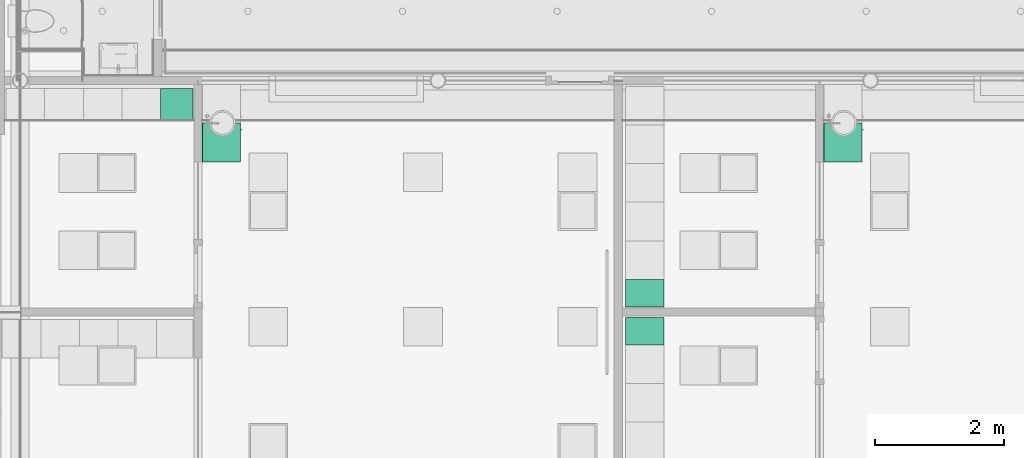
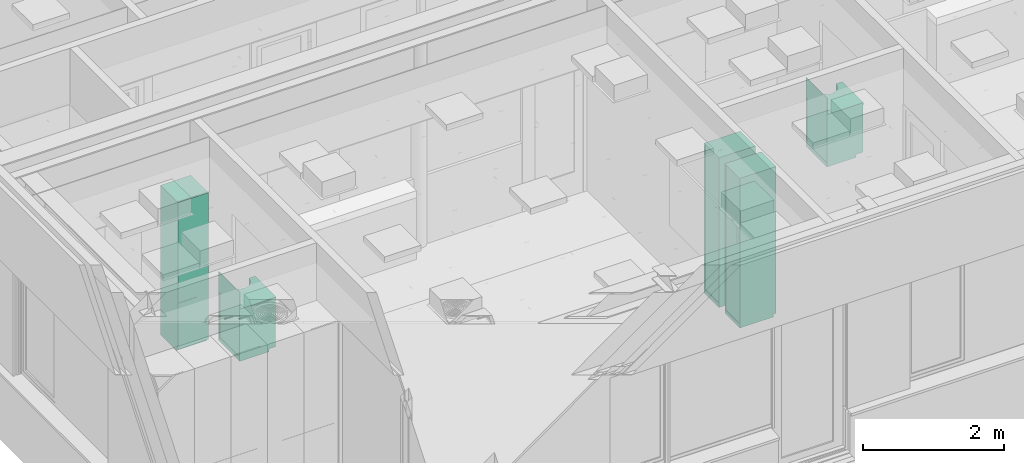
# One storey, part 300 of 347: 5 distribution elements.
"""IFC2X3 building model written with IfcOpenShell, lengths in millimetres."""

from ifc_helpers import new_model, entity, si_unit, converted_unit, derived_unit, money_unit, direction, frame, origin_with_axes, place, context, subcontext, project, spatial, faceted_brep, type_object, element, save


model = new_model("IFC2X3")

# Units and contexts
model_context = context("Model", 3, precision=0.01, world=origin_with_axes(), true_north=direction((0.0, 1.0)))
plan_context = context("Plan", 3, precision=0.01, world=origin_with_axes(), true_north=direction((0.0, 1.0)))
body_context = subcontext(model_context, "Body", "Model", "MODEL_VIEW")
ifc_project = project(units=[si_unit("LENGTHUNIT", "METRE", prefix="MILLI"), si_unit("AREAUNIT", "SQUARE_METRE"), si_unit("VOLUMEUNIT", "CUBIC_METRE"), converted_unit("PLANEANGLEUNIT", "DEGREE", entity("IfcPlaneAngleMeasure", 0.0174532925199), si_unit("PLANEANGLEUNIT", "RADIAN"), dimensions=[0, 0, 0, 0, 0, 0, 0]), money_unit("EUR"), converted_unit("TIMEUNIT", "Year", entity("IfcTimeMeasure", 31556926.0), si_unit("TIMEUNIT", "SECOND"), dimensions=[0, 0, 1, 0, 0, 0, 0]), si_unit("MASSUNIT", "GRAM", prefix="KILO"), si_unit("THERMODYNAMICTEMPERATUREUNIT", "DEGREE_CELSIUS"), si_unit("LUMINOUSINTENSITYUNIT", "LUMEN"), si_unit("ENERGYUNIT", "JOULE", prefix="MEGA"), derived_unit("THERMALCONDUCTANCEUNIT", [(si_unit("POWERUNIT", "WATT"), 1), (si_unit("LENGTHUNIT", "METRE"), -1), (si_unit("THERMODYNAMICTEMPERATUREUNIT", "KELVIN"), -1)]), derived_unit("SPECIFICHEATCAPACITYUNIT", [(si_unit("ENERGYUNIT", "JOULE"), 1), (si_unit("MASSUNIT", "GRAM", prefix="KILO"), -1), (si_unit("THERMODYNAMICTEMPERATUREUNIT", "KELVIN"), -1)]), derived_unit("MASSDENSITYUNIT", [(si_unit("MASSUNIT", "GRAM", prefix="KILO"), 1), (si_unit("VOLUMEUNIT", "CUBIC_METRE"), -1)])], contexts=[model_context, plan_context])

# Site, building, storey
site_placement = place(None, origin_with_axes())
site = spatial("IfcSite", under=ifc_project, at=site_placement, Name="Site", CompositionType="ELEMENT")
building_placement = place(site_placement, origin_with_axes())
building = spatial("IfcBuilding", under=site, at=building_placement, Name="Naam gebouw", CompositionType="ELEMENT")
storey_placement = place(building_placement, origin_with_axes())
storey = spatial("IfcBuildingStorey", under=building, at=storey_placement, Name="begane grond", CompositionType="ELEMENT", Elevation=0.0)

# Distribution elements
distribution_element_type_1 = type_object("IfcDistributionElementType", Name="Hoge kast recht 25")
distribution_element_1_placement = place(storey_placement, frame((14702.0, 9034.99999988, 0.0), z_axis=(0.0, 0.0, 1.0), x_axis=(0.0, 1.0, 0.0)))
element("IfcDistributionElement", 1, at=distribution_element_1_placement, inside=storey, type_object=distribution_element_type_1, Name="65 Beveiliging_80 garderobe", context=body_context, shape_type="Brep", body=[
    faceted_brep([(-18.0, -580.0, 841.0), (-18.0, -580.0, 859.0), (-406.999999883, -580.0, 859.0), (-406.999999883, -580.0, 841.0), (-18.0, -18.0, 841.0), (-18.0, -18.0, 859.0), (-406.999999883, -18.0, 859.0), (-406.999999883, -18.0, 841.0)], [[[0, 1, 2, 3]], [[4, 5, 1, 0]], [[1, 5, 6, 2]], [[3, 2, 6, 7]], [[0, 3, 7, 4]], [[7, 6, 5, 4]]]),
    faceted_brep([(-1.0, -580.0, 51.0), (-1.0, -598.0, 51.0), (-423.999999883, -598.0, 51.0), (-423.999999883, -580.0, 51.0), (-1.0, -580.0, 849.0), (-1.0, -598.0, 849.0), (-423.999999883, -598.0, 849.0), (-423.999999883, -580.0, 849.0)], [[[0, 1, 2, 3]], [[4, 5, 1, 0]], [[1, 5, 6, 2]], [[3, 2, 6, 7]], [[0, 3, 7, 4]], [[7, 6, 5, 4]]]),
    faceted_brep([(-1.0, -580.0, 851.0), (-1.0, -598.0, 851.0), (-423.999999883, -598.0, 851.0), (-423.999999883, -580.0, 851.0), (-1.0, -580.0, 2599.0), (-1.0, -598.0, 2599.0), (-423.999999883, -598.0, 2599.0), (-423.999999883, -580.0, 2599.0)], [[[0, 1, 2, 3]], [[4, 5, 1, 0]], [[1, 5, 6, 2]], [[3, 2, 6, 7]], [[0, 3, 7, 4]], [[7, 6, 5, 4]]]),
    faceted_brep([(-18.0, -580.0, 50.0), (-18.0, -580.0, 68.0), (-406.999999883, -580.0, 68.0), (-406.999999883, -580.0, 50.0), (-18.0, 0.0, 50.0), (-18.0, 0.0, 68.0), (-406.999999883, 0.0, 68.0), (-406.999999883, 0.0, 50.0)], [[[0, 1, 2, 3]], [[4, 5, 1, 0]], [[1, 5, 6, 2]], [[3, 2, 6, 7]], [[0, 3, 7, 4]], [[7, 6, 5, 4]]]),
    faceted_brep([(-18.0, -580.0, 2582.0), (-18.0, -580.0, 2600.0), (-406.999999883, -580.0, 2600.0), (-406.999999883, -580.0, 2582.0), (-18.0, 0.0, 2582.0), (-18.0, 0.0, 2600.0), (-406.999999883, 0.0, 2600.0), (-406.999999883, 0.0, 2582.0)], [[[0, 1, 2, 3]], [[4, 5, 1, 0]], [[1, 5, 6, 2]], [[3, 2, 6, 7]], [[0, 3, 7, 4]], [[7, 6, 5, 4]]]),
    faceted_brep([(0.0, 0.0, 50.0), (0.0, 0.0, 2600.0), (0.0, -580.0, 2600.0), (0.0, -580.0, 50.0), (-18.0, 0.0, 50.0), (-18.0, 0.0, 2600.0), (-18.0, -580.0, 2600.0), (-18.0, -580.0, 50.0)], [[[0, 1, 2, 3]], [[4, 5, 1, 0]], [[1, 5, 6, 2]], [[3, 2, 6, 7]], [[0, 3, 7, 4]], [[7, 6, 5, 4]]]),
    faceted_brep([(-424.999999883, -580.0, 50.0), (-424.999999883, -580.0, 2600.0), (-424.999999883, 0.0, 2600.0), (-424.999999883, 0.0, 50.0), (-406.999999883, -580.0, 50.0), (-406.999999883, -580.0, 2600.0), (-406.999999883, 0.0, 2600.0), (-406.999999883, 0.0, 50.0)], [[[0, 1, 2, 3]], [[4, 5, 1, 0]], [[1, 5, 6, 2]], [[3, 2, 6, 7]], [[0, 3, 7, 4]], [[7, 6, 5, 4]]]),
    faceted_brep([(-406.999999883, -9.0, 68.0), (-406.999999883, -9.0, 2582.0), (-18.0, -9.0, 2582.0), (-18.0, -9.0, 68.0), (-406.999999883, -18.0, 68.0), (-406.999999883, -18.0, 2582.0), (-18.0, -18.0, 2582.0), (-18.0, -18.0, 68.0)], [[[0, 1, 2, 3]], [[4, 5, 1, 0]], [[1, 5, 6, 2]], [[3, 2, 6, 7]], [[0, 3, 7, 4]], [[7, 6, 5, 4]]]),
    faceted_brep([(0.0, -550.0, 0.0), (0.0, -550.0, 50.0), (-424.999999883, -550.0, 50.0), (-424.999999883, -550.0, 0.0), (0.0, 0.0, 0.0), (0.0, 0.0, 50.0), (-424.999999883, 0.0, 50.0), (-424.999999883, 0.0, 0.0)], [[[0, 1, 2, 3]], [[4, 5, 1, 0]], [[1, 5, 6, 2]], [[3, 2, 6, 7]], [[0, 3, 7, 4]], [[7, 6, 5, 4]]]),
])
distribution_element_2_placement = place(storey_placement, frame((7480.0, 11997.999972, 0.0), z_axis=(0.0, 0.0, 1.0), x_axis=(1.0, 0.0, 0.0)))
element("IfcDistributionElement", 2, at=distribution_element_2_placement, inside=storey, type_object=distribution_element_type_1, Name="65 Beveiliging_80 garderobe", context=body_context, shape_type="Brep", body=[
    faceted_brep([(18.0, -480.0, 841.0), (482.0, -480.0, 841.0), (482.0, -480.0, 859.0), (18.0, -480.0, 859.0), (18.0, -18.0, 841.0), (482.0, -18.0, 841.0), (482.0, -18.0, 859.0), (18.0, -18.0, 859.0)], [[[0, 1, 2, 3]], [[0, 4, 5, 1]], [[1, 5, 6, 2]], [[3, 2, 6, 7]], [[4, 0, 3, 7]], [[5, 4, 7, 6]]]),
    faceted_brep([(1.0, -480.0, 51.0), (499.0, -480.0, 51.0), (499.0, -498.0, 51.0), (1.0, -498.0, 51.0), (1.0, -480.0, 849.0), (499.0, -480.0, 849.0), (499.0, -498.0, 849.0), (1.0, -498.0, 849.0)], [[[0, 1, 2, 3]], [[0, 4, 5, 1]], [[1, 5, 6, 2]], [[3, 2, 6, 7]], [[4, 0, 3, 7]], [[5, 4, 7, 6]]]),
    faceted_brep([(1.0, -480.0, 851.0), (499.0, -480.0, 851.0), (499.0, -498.0, 851.0), (1.0, -498.0, 851.0), (1.0, -480.0, 2599.0), (499.0, -480.0, 2599.0), (499.0, -498.0, 2599.0), (1.0, -498.0, 2599.0)], [[[0, 1, 2, 3]], [[0, 4, 5, 1]], [[1, 5, 6, 2]], [[3, 2, 6, 7]], [[4, 0, 3, 7]], [[5, 4, 7, 6]]]),
    faceted_brep([(18.0, -480.0, 50.0), (482.0, -480.0, 50.0), (482.0, -480.0, 68.0), (18.0, -480.0, 68.0), (18.0, 0.0, 50.0), (482.0, 0.0, 50.0), (482.0, 0.0, 68.0), (18.0, 0.0, 68.0)], [[[0, 1, 2, 3]], [[0, 4, 5, 1]], [[1, 5, 6, 2]], [[3, 2, 6, 7]], [[4, 0, 3, 7]], [[5, 4, 7, 6]]]),
    faceted_brep([(18.0, -480.0, 2582.0), (482.0, -480.0, 2582.0), (482.0, -480.0, 2600.0), (18.0, -480.0, 2600.0), (18.0, 0.0, 2582.0), (482.0, 0.0, 2582.0), (482.0, 0.0, 2600.0), (18.0, 0.0, 2600.0)], [[[0, 1, 2, 3]], [[0, 4, 5, 1]], [[1, 5, 6, 2]], [[3, 2, 6, 7]], [[4, 0, 3, 7]], [[5, 4, 7, 6]]]),
    faceted_brep([(0.0, 0.0, 50.0), (0.0, -480.0, 50.0), (0.0, -480.0, 2600.0), (0.0, 0.0, 2600.0), (18.0, 0.0, 50.0), (18.0, -480.0, 50.0), (18.0, -480.0, 2600.0), (18.0, 0.0, 2600.0)], [[[0, 1, 2, 3]], [[0, 4, 5, 1]], [[1, 5, 6, 2]], [[3, 2, 6, 7]], [[4, 0, 3, 7]], [[5, 4, 7, 6]]]),
    faceted_brep([(500.0, -480.0, 50.0), (500.0, 0.0, 50.0), (500.0, 0.0, 2600.0), (500.0, -480.0, 2600.0), (482.0, -480.0, 50.0), (482.0, 0.0, 50.0), (482.0, 0.0, 2600.0), (482.0, -480.0, 2600.0)], [[[0, 1, 2, 3]], [[0, 4, 5, 1]], [[1, 5, 6, 2]], [[3, 2, 6, 7]], [[4, 0, 3, 7]], [[5, 4, 7, 6]]]),
    faceted_brep([(482.0, -9.0, 68.0), (18.0, -9.0, 68.0), (18.0, -9.0, 2582.0), (482.0, -9.0, 2582.0), (482.0, -18.0, 68.0), (18.0, -18.0, 68.0), (18.0, -18.0, 2582.0), (482.0, -18.0, 2582.0)], [[[0, 1, 2, 3]], [[0, 4, 5, 1]], [[1, 5, 6, 2]], [[3, 2, 6, 7]], [[4, 0, 3, 7]], [[5, 4, 7, 6]]]),
    faceted_brep([(0.0, -450.0, 0.0), (500.0, -450.0, 0.0), (500.0, -450.0, 50.0), (0.0, -450.0, 50.0), (0.0, 0.0, 0.0), (500.0, 0.0, 0.0), (500.0, 0.0, 50.0), (0.0, 0.0, 50.0)], [[[0, 1, 2, 3]], [[0, 4, 5, 1]], [[1, 5, 6, 2]], [[3, 2, 6, 7]], [[4, 0, 3, 7]], [[5, 4, 7, 6]]]),
])
distribution_element_3_placement = place(storey_placement, frame((14702.0, 8020.00000012, 0.0), z_axis=(0.0, 0.0, 1.0), x_axis=(0.0, 1.0, 0.0)))
element("IfcDistributionElement", 3, at=distribution_element_3_placement, inside=storey, type_object=distribution_element_type_1, Name="65 Beveiliging_80 garderobe", context=body_context, shape_type="Brep", body=[
    faceted_brep([(18.0, -580.0, 841.0), (406.999999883, -580.0, 841.0), (406.999999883, -580.0, 859.0), (18.0, -580.0, 859.0), (18.0, -18.0, 841.0), (406.999999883, -18.0, 841.0), (406.999999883, -18.0, 859.0), (18.0, -18.0, 859.0)], [[[0, 1, 2, 3]], [[0, 4, 5, 1]], [[1, 5, 6, 2]], [[3, 2, 6, 7]], [[4, 0, 3, 7]], [[5, 4, 7, 6]]]),
    faceted_brep([(1.0, -580.0, 51.0), (423.999999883, -580.0, 51.0), (423.999999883, -598.0, 51.0), (1.0, -598.0, 51.0), (1.0, -580.0, 849.0), (423.999999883, -580.0, 849.0), (423.999999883, -598.0, 849.0), (1.0, -598.0, 849.0)], [[[0, 1, 2, 3]], [[0, 4, 5, 1]], [[1, 5, 6, 2]], [[3, 2, 6, 7]], [[4, 0, 3, 7]], [[5, 4, 7, 6]]]),
    faceted_brep([(1.0, -580.0, 851.0), (423.999999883, -580.0, 851.0), (423.999999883, -598.0, 851.0), (1.0, -598.0, 851.0), (1.0, -580.0, 2599.0), (423.999999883, -580.0, 2599.0), (423.999999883, -598.0, 2599.0), (1.0, -598.0, 2599.0)], [[[0, 1, 2, 3]], [[0, 4, 5, 1]], [[1, 5, 6, 2]], [[3, 2, 6, 7]], [[4, 0, 3, 7]], [[5, 4, 7, 6]]]),
    faceted_brep([(18.0, -580.0, 50.0), (406.999999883, -580.0, 50.0), (406.999999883, -580.0, 68.0), (18.0, -580.0, 68.0), (18.0, 0.0, 50.0), (406.999999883, 0.0, 50.0), (406.999999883, 0.0, 68.0), (18.0, 0.0, 68.0)], [[[0, 1, 2, 3]], [[0, 4, 5, 1]], [[1, 5, 6, 2]], [[3, 2, 6, 7]], [[4, 0, 3, 7]], [[5, 4, 7, 6]]]),
    faceted_brep([(18.0, -580.0, 2582.0), (406.999999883, -580.0, 2582.0), (406.999999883, -580.0, 2600.0), (18.0, -580.0, 2600.0), (18.0, 0.0, 2582.0), (406.999999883, 0.0, 2582.0), (406.999999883, 0.0, 2600.0), (18.0, 0.0, 2600.0)], [[[0, 1, 2, 3]], [[0, 4, 5, 1]], [[1, 5, 6, 2]], [[3, 2, 6, 7]], [[4, 0, 3, 7]], [[5, 4, 7, 6]]]),
    faceted_brep([(0.0, 0.0, 50.0), (0.0, -580.0, 50.0), (0.0, -580.0, 2600.0), (0.0, 0.0, 2600.0), (18.0, 0.0, 50.0), (18.0, -580.0, 50.0), (18.0, -580.0, 2600.0), (18.0, 0.0, 2600.0)], [[[0, 1, 2, 3]], [[0, 4, 5, 1]], [[1, 5, 6, 2]], [[3, 2, 6, 7]], [[4, 0, 3, 7]], [[5, 4, 7, 6]]]),
    faceted_brep([(424.999999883, -580.0, 50.0), (424.999999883, 0.0, 50.0), (424.999999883, 0.0, 2600.0), (424.999999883, -580.0, 2600.0), (406.999999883, -580.0, 50.0), (406.999999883, 0.0, 50.0), (406.999999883, 0.0, 2600.0), (406.999999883, -580.0, 2600.0)], [[[0, 1, 2, 3]], [[0, 4, 5, 1]], [[1, 5, 6, 2]], [[3, 2, 6, 7]], [[4, 0, 3, 7]], [[5, 4, 7, 6]]]),
    faceted_brep([(406.999999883, -9.0, 68.0), (18.0, -9.0, 68.0), (18.0, -9.0, 2582.0), (406.999999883, -9.0, 2582.0), (406.999999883, -18.0, 68.0), (18.0, -18.0, 68.0), (18.0, -18.0, 2582.0), (406.999999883, -18.0, 2582.0)], [[[0, 1, 2, 3]], [[0, 4, 5, 1]], [[1, 5, 6, 2]], [[3, 2, 6, 7]], [[4, 0, 3, 7]], [[5, 4, 7, 6]]]),
    faceted_brep([(0.0, -550.0, 0.0), (424.999999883, -550.0, 0.0), (424.999999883, -550.0, 50.0), (0.0, -550.0, 50.0), (0.0, 0.0, 0.0), (424.999999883, 0.0, 0.0), (424.999999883, 0.0, 50.0), (0.0, 0.0, 50.0)], [[[0, 1, 2, 3]], [[0, 4, 5, 1]], [[1, 5, 6, 2]], [[3, 2, 6, 7]], [[4, 0, 3, 7]], [[5, 4, 7, 6]]]),
])
distribution_element_type_2 = type_object("IfcDistributionElementType", Name="Onderkast recht 25")
distribution_element_4_placement = place(storey_placement, frame((17775.0, 11462.5, 0.0), z_axis=(0.0, 0.0, 1.0), x_axis=(0.0, 1.0, 0.0)))
element("IfcDistributionElement", 4, at=distribution_element_4_placement, inside=storey, type_object=distribution_element_type_2, Name="65 Beveiliging_82 pantryblok", context=body_context, shape_type="Brep", body=[
    faceted_brep([(0.0, -496.733692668, 870.0), (0.0, -496.733692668, 910.0), (0.0, -600.0, 910.0), (0.0, -600.0, 870.0), (-68.8830178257, -483.03200852, 910.0), (-68.8830178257, -483.03200852, 870.0), (-68.8830178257, -150.435376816, 910.0), (0.0, -136.733692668, 910.0), (0.0, 0.0, 910.0), (-600.0, 0.0, 910.0), (-600.0, -600.0, 910.0), (-127.279220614, -444.012913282, 910.0), (-166.298315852, -385.616710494, 910.0), (-180.0, -316.733692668, 910.0), (-166.298315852, -247.850674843, 910.0), (-127.279220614, -189.454472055, 910.0), (-600.0, -600.0, 870.0), (-600.0, 0.0, 870.0), (0.0, 0.0, 870.0), (0.0, -136.733692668, 870.0), (-68.8830178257, -150.435376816, 870.0), (-127.279220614, -189.454472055, 870.0), (-166.298315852, -247.850674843, 870.0), (-180.0, -316.733692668, 870.0), (-166.298315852, -385.616710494, 870.0), (-127.279220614, -444.012913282, 870.0)], [[[0, 1, 2, 3]], [[4, 1, 0, 5]], [[6, 7, 8, 9, 10, 2, 1, 4, 11, 12, 13, 14, 15]], [[16, 3, 2, 10]], [[5, 0, 3, 16, 17, 18, 19, 20, 21, 22, 23, 24, 25]], [[11, 4, 5, 25]], [[7, 6, 20, 19]], [[7, 19, 18, 8]], [[18, 17, 9, 8]], [[17, 16, 10, 9]], [[12, 11, 25, 24]], [[13, 12, 24, 23]], [[14, 13, 23, 22]], [[15, 14, 22, 21]], [[6, 15, 21, 20]]]),
    faceted_brep([(-18.0, -512.0, 852.0), (-18.0, -572.0, 852.0), (-582.0, -572.0, 852.0), (-582.0, -512.0, 852.0), (-18.0, -572.0, 870.0), (-18.0, -512.0, 870.0), (-582.0, -572.0, 870.0), (-582.0, -512.0, 870.0)], [[[0, 1, 2, 3]], [[4, 1, 0, 5]], [[1, 4, 6, 2]], [[3, 2, 6, 7]], [[5, 0, 3, 7]], [[4, 5, 7, 6]]]),
    faceted_brep([(-18.0, -9.0, 68.0), (-582.0, -9.0, 68.0), (-582.0, -9.0, 852.0), (-18.0, -9.0, 852.0), (-582.0, -18.0, 68.0), (-18.0, -18.0, 68.0), (-582.0, -18.0, 852.0), (-18.0, -18.0, 852.0)], [[[0, 1, 2, 3]], [[4, 1, 0, 5]], [[1, 4, 6, 2]], [[3, 2, 6, 7]], [[5, 0, 3, 7]], [[4, 5, 7, 6]]]),
    faceted_brep([(-582.0, -60.0, 852.0), (-582.0, 0.0, 852.0), (-18.0, 0.0, 852.0), (-18.0, -60.0, 852.0), (-582.0, 0.0, 870.0), (-582.0, -60.0, 870.0), (-18.0, 0.0, 870.0), (-18.0, -60.0, 870.0)], [[[0, 1, 2, 3]], [[4, 1, 0, 5]], [[1, 4, 6, 2]], [[3, 2, 6, 7]], [[5, 0, 3, 7]], [[4, 5, 7, 6]]]),
    faceted_brep([(-14.8492424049, -201.884450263, 710.0), (-18.0, -205.990597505, 710.0), (-18.0, -205.990597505, 690.0), (-14.8492424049, -201.884450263, 690.0), (-18.0, -140.314115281, 710.0), (-10.5, -198.547159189, 710.0), (-5.43519994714, -196.449250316, 710.0), (0.0, -195.733692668, 710.0), (0.0, -136.733692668, 710.0), (-18.0, -493.153270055, 710.0), (-18.0, -227.476787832, 710.0), (-18.0, -227.476787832, 690.0), (-18.0, -140.314115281, 870.0), (-18.0, 0.0, 870.0), (-18.0, 0.0, 50.0), (-18.0, -572.0, 50.0), (-18.0, -572.0, 870.0), (-18.0, -493.153270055, 870.0), (0.0, -237.733692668, 690.0), (0.0, -195.733692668, 690.0), (-5.43519994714, -196.449250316, 690.0), (-10.5, -198.547159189, 690.0), (-14.8492424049, -231.582935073, 690.0), (-10.5, -234.920226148, 690.0), (-5.43519994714, -237.01813502, 690.0), (0.0, -237.733692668, 710.0), (0.0, -496.733692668, 710.0), (0.0, -496.733692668, 870.0), (0.0, -572.0, 870.0), (0.0, -572.0, 50.0), (0.0, 0.0, 50.0), (0.0, 0.0, 870.0), (0.0, -136.733692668, 870.0), (-5.43519994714, -237.01813502, 710.0), (-10.5, -234.920226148, 710.0), (-14.8492424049, -231.582935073, 710.0)], [[[0, 1, 2, 3]], [[4, 1, 0, 5, 6, 7, 8]], [[9, 10, 11, 2, 1, 4, 12, 13, 14, 15, 16, 17]], [[18, 19, 20, 21, 3, 2, 11, 22, 23, 24]], [[5, 0, 3, 21]], [[6, 5, 21, 20]], [[7, 6, 20, 19]], [[25, 26, 27, 28, 29, 30, 31, 32, 8, 7, 19, 18]], [[32, 12, 4, 8]], [[26, 25, 33, 34, 35, 10, 9]], [[10, 35, 22, 11]], [[12, 32, 31, 13]], [[30, 14, 13, 31]], [[14, 30, 29, 15]], [[15, 29, 28, 16]], [[27, 17, 16, 28]], [[17, 27, 26, 9]], [[35, 34, 23, 22]], [[34, 33, 24, 23]], [[33, 25, 18, 24]]]),
    faceted_brep([(-600.0, 0.0, 50.0), (-600.0, -572.0, 50.0), (-600.0, -572.0, 870.0), (-600.0, 0.0, 870.0), (-582.0, -572.0, 50.0), (-582.0, 0.0, 50.0), (-582.0, -572.0, 870.0), (-582.0, 0.0, 870.0)], [[[0, 1, 2, 3]], [[4, 1, 0, 5]], [[1, 4, 6, 2]], [[3, 2, 6, 7]], [[5, 0, 3, 7]], [[4, 5, 7, 6]]]),
    faceted_brep([(-600.0, 0.0, 910.0), (0.0, 0.0, 910.0), (0.0, -6.0, 910.0), (-600.0, -6.0, 910.0), (-600.0, 0.0, 1200.0), (0.0, 0.0, 1200.0), (0.0, -6.0, 1200.0), (-600.0, -6.0, 1200.0)], [[[0, 1, 2, 3]], [[4, 5, 1, 0]], [[1, 5, 6, 2]], [[3, 2, 6, 7]], [[0, 3, 7, 4]], [[7, 6, 5, 4]]]),
    faceted_brep([(-96.0, -590.0, 386.0), (-106.0, -590.0, 386.0), (-106.0, -590.0, 396.0), (-96.0, -590.0, 396.0), (-96.0, -600.0, 386.0), (-106.0, -600.0, 386.0), (-106.0, -603.472963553, 386.30384494), (-106.0, -606.840402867, 387.206147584), (-106.0, -610.0, 388.679491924), (-106.0, -612.855752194, 390.679111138), (-106.0, -615.320888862, 393.144247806), (-106.0, -617.320508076, 396.0), (-106.0, -618.793852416, 399.159597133), (-106.0, -619.69615506, 402.527036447), (-106.0, -620.0, 406.0), (-106.0, -620.0, 516.0), (-106.0, -619.69615506, 519.472963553), (-106.0, -618.793852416, 522.840402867), (-106.0, -617.320508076, 526.0), (-106.0, -615.320888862, 528.855752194), (-106.0, -612.855752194, 531.320888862), (-106.0, -610.0, 533.320508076), (-106.0, -606.840402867, 534.793852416), (-106.0, -603.472963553, 535.69615506), (-106.0, -600.0, 536.0), (-106.0, -590.0, 536.0), (-106.0, -590.0, 526.0), (-106.0, -600.0, 526.0), (-106.0, -601.736481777, 525.84807753), (-106.0, -603.420201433, 525.396926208), (-106.0, -605.0, 524.660254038), (-106.0, -606.427876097, 523.660444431), (-106.0, -607.660444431, 522.427876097), (-106.0, -608.660254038, 521.0), (-106.0, -609.396926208, 519.420201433), (-106.0, -609.84807753, 517.736481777), (-106.0, -610.0, 516.0), (-106.0, -610.0, 406.0), (-106.0, -609.84807753, 404.263518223), (-106.0, -609.396926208, 402.579798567), (-106.0, -608.660254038, 401.0), (-106.0, -607.660444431, 399.572123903), (-106.0, -606.427876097, 398.339555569), (-106.0, -605.0, 397.339745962), (-106.0, -603.420201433, 396.603073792), (-106.0, -601.736481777, 396.15192247), (-106.0, -600.0, 396.0), (-96.0, -600.0, 396.0), (-96.0, -601.736481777, 396.15192247), (-96.0, -603.420201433, 396.603073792), (-96.0, -605.0, 397.339745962), (-96.0, -606.427876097, 398.339555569), (-96.0, -607.660444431, 399.572123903), (-96.0, -608.660254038, 401.0), (-96.0, -609.396926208, 402.579798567), (-96.0, -609.84807753, 404.263518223), (-96.0, -610.0, 406.0), (-96.0, -610.0, 516.0), (-96.0, -609.84807753, 517.736481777), (-96.0, -609.396926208, 519.420201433), (-96.0, -608.660254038, 521.0), (-96.0, -607.660444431, 522.427876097), (-96.0, -606.427876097, 523.660444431), (-96.0, -605.0, 524.660254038), (-96.0, -603.420201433, 525.396926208), (-96.0, -601.736481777, 525.84807753), (-96.0, -600.0, 526.0), (-96.0, -590.0, 526.0), (-96.0, -590.0, 536.0), (-96.0, -600.0, 536.0), (-96.0, -603.472963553, 535.69615506), (-96.0, -606.840402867, 534.793852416), (-96.0, -610.0, 533.320508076), (-96.0, -612.855752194, 531.320888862), (-96.0, -615.320888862, 528.855752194), (-96.0, -617.320508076, 526.0), (-96.0, -618.793852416, 522.840402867), (-96.0, -619.69615506, 519.472963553), (-96.0, -620.0, 516.0), (-96.0, -620.0, 406.0), (-96.0, -619.69615506, 402.527036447), (-96.0, -618.793852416, 399.159597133), (-96.0, -617.320508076, 396.0), (-96.0, -615.320888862, 393.144247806), (-96.0, -612.855752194, 390.679111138), (-96.0, -610.0, 388.679491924), (-96.0, -606.840402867, 387.206147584), (-96.0, -603.472963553, 386.30384494)], [[[0, 1, 2, 3]], [[4, 5, 1, 0]], [[1, 5, 6, 7, 8, 9, 10, 11, 12, 13, 14, 15, 16, 17, 18, 19, 20, 21, 22, 23, 24, 25, 26, 27, 28, 29, 30, 31, 32, 33, 34, 35, 36, 37, 38, 39, 40, 41, 42, 43, 44, 45, 46, 2]], [[3, 2, 46, 47]], [[0, 3, 47, 48, 49, 50, 51, 52, 53, 54, 55, 56, 57, 58, 59, 60, 61, 62, 63, 64, 65, 66, 67, 68, 69, 70, 71, 72, 73, 74, 75, 76, 77, 78, 79, 80, 81, 82, 83, 84, 85, 86, 87, 4]], [[87, 6, 5, 4]], [[86, 7, 6, 87]], [[85, 8, 7, 86]], [[84, 9, 8, 85]], [[83, 10, 9, 84]], [[82, 11, 10, 83]], [[81, 12, 11, 82]], [[80, 13, 12, 81]], [[79, 14, 13, 80]], [[78, 15, 14, 79]], [[77, 16, 15, 78]], [[76, 17, 16, 77]], [[75, 18, 17, 76]], [[74, 19, 18, 75]], [[73, 20, 19, 74]], [[72, 21, 20, 73]], [[71, 22, 21, 72]], [[70, 23, 22, 71]], [[69, 24, 23, 70]], [[68, 25, 24, 69]], [[67, 26, 25, 68]], [[66, 27, 26, 67]], [[65, 28, 27, 66]], [[64, 29, 28, 65]], [[63, 30, 29, 64]], [[62, 31, 30, 63]], [[61, 32, 31, 62]], [[60, 33, 32, 61]], [[59, 34, 33, 60]], [[58, 35, 34, 59]], [[57, 36, 35, 58]], [[56, 37, 36, 57]], [[55, 38, 37, 56]], [[54, 39, 38, 55]], [[53, 40, 39, 54]], [[52, 41, 40, 53]], [[51, 42, 41, 52]], [[50, 43, 42, 51]], [[49, 44, 43, 50]], [[48, 45, 44, 49]], [[47, 46, 45, 48]]]),
    faceted_brep([(-0.999999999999, -572.0, 51.0), (-0.999999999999, -590.0, 51.0), (-599.0, -590.0, 51.0), (-599.0, -572.0, 51.0), (-0.999999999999, -572.0, 869.0), (-0.999999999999, -590.0, 869.0), (-599.0, -590.0, 869.0), (-599.0, -572.0, 869.0)], [[[0, 1, 2, 3]], [[4, 5, 1, 0]], [[1, 5, 6, 2]], [[3, 2, 6, 7]], [[0, 3, 7, 4]], [[7, 6, 5, 4]]]),
    faceted_brep([(-18.0, -572.0, 50.0), (-18.0, -572.0, 68.0), (-582.0, -572.0, 68.0), (-582.0, -572.0, 50.0), (-18.0, 0.0, 50.0), (-18.0, 0.0, 68.0), (-582.0, 0.0, 68.0), (-582.0, 0.0, 50.0)], [[[0, 1, 2, 3]], [[4, 5, 1, 0]], [[1, 5, 6, 2]], [[3, 2, 6, 7]], [[0, 3, 7, 4]], [[7, 6, 5, 4]]]),
    faceted_brep([(0.0, -482.0, 0.0), (0.0, -482.0, 50.0), (-600.0, -482.0, 50.0), (-600.0, -482.0, 0.0), (0.0, 0.0, 0.0), (0.0, 0.0, 50.0), (-600.0, 0.0, 50.0), (-600.0, 0.0, 0.0)], [[[0, 1, 2, 3]], [[4, 5, 1, 0]], [[1, 5, 6, 2]], [[3, 2, 6, 7]], [[0, 3, 7, 4]], [[7, 6, 5, 4]]]),
])
distribution_element_5_placement = place(storey_placement, frame((8125.0, 11462.5, 0.0), z_axis=(0.0, 0.0, 1.0), x_axis=(0.0, 1.0, 0.0)))
element("IfcDistributionElement", 5, at=distribution_element_5_placement, inside=storey, type_object=distribution_element_type_2, Name="65 Beveiliging_82 pantryblok", context=body_context, shape_type="Brep", body=[
    faceted_brep([(0.0, -496.733692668, 870.0), (0.0, -496.733692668, 910.0), (0.0, -600.0, 910.0), (0.0, -600.0, 870.0), (-68.8830178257, -483.03200852, 910.0), (-68.8830178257, -483.03200852, 870.0), (-68.8830178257, -150.435376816, 910.0), (0.0, -136.733692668, 910.0), (0.0, 0.0, 910.0), (-600.0, 0.0, 910.0), (-600.0, -600.0, 910.0), (-127.279220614, -444.012913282, 910.0), (-166.298315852, -385.616710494, 910.0), (-180.0, -316.733692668, 910.0), (-166.298315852, -247.850674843, 910.0), (-127.279220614, -189.454472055, 910.0), (-600.0, -600.0, 870.0), (-600.0, 0.0, 870.0), (0.0, 0.0, 870.0), (0.0, -136.733692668, 870.0), (-68.8830178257, -150.435376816, 870.0), (-127.279220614, -189.454472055, 870.0), (-166.298315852, -247.850674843, 870.0), (-180.0, -316.733692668, 870.0), (-166.298315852, -385.616710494, 870.0), (-127.279220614, -444.012913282, 870.0)], [[[0, 1, 2, 3]], [[4, 1, 0, 5]], [[6, 7, 8, 9, 10, 2, 1, 4, 11, 12, 13, 14, 15]], [[16, 3, 2, 10]], [[5, 0, 3, 16, 17, 18, 19, 20, 21, 22, 23, 24, 25]], [[11, 4, 5, 25]], [[7, 6, 20, 19]], [[7, 19, 18, 8]], [[18, 17, 9, 8]], [[17, 16, 10, 9]], [[12, 11, 25, 24]], [[13, 12, 24, 23]], [[14, 13, 23, 22]], [[15, 14, 22, 21]], [[6, 15, 21, 20]]]),
    faceted_brep([(-18.0, -512.0, 852.0), (-18.0, -572.0, 852.0), (-582.0, -572.0, 852.0), (-582.0, -512.0, 852.0), (-18.0, -572.0, 870.0), (-18.0, -512.0, 870.0), (-582.0, -572.0, 870.0), (-582.0, -512.0, 870.0)], [[[0, 1, 2, 3]], [[4, 1, 0, 5]], [[1, 4, 6, 2]], [[3, 2, 6, 7]], [[5, 0, 3, 7]], [[4, 5, 7, 6]]]),
    faceted_brep([(-18.0, -9.0, 68.0), (-582.0, -9.0, 68.0), (-582.0, -9.0, 852.0), (-18.0, -9.0, 852.0), (-582.0, -18.0, 68.0), (-18.0, -18.0, 68.0), (-582.0, -18.0, 852.0), (-18.0, -18.0, 852.0)], [[[0, 1, 2, 3]], [[4, 1, 0, 5]], [[1, 4, 6, 2]], [[3, 2, 6, 7]], [[5, 0, 3, 7]], [[4, 5, 7, 6]]]),
    faceted_brep([(-582.0, -60.0, 852.0), (-582.0, 0.0, 852.0), (-18.0, 0.0, 852.0), (-18.0, -60.0, 852.0), (-582.0, 0.0, 870.0), (-582.0, -60.0, 870.0), (-18.0, 0.0, 870.0), (-18.0, -60.0, 870.0)], [[[0, 1, 2, 3]], [[4, 1, 0, 5]], [[1, 4, 6, 2]], [[3, 2, 6, 7]], [[5, 0, 3, 7]], [[4, 5, 7, 6]]]),
    faceted_brep([(-14.8492424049, -201.884450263, 710.0), (-18.0, -205.990597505, 710.0), (-18.0, -205.990597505, 690.0), (-14.8492424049, -201.884450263, 690.0), (-18.0, -140.314115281, 710.0), (-10.5, -198.547159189, 710.0), (-5.43519994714, -196.449250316, 710.0), (0.0, -195.733692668, 710.0), (0.0, -136.733692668, 710.0), (-18.0, -493.153270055, 710.0), (-18.0, -227.476787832, 710.0), (-18.0, -227.476787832, 690.0), (-18.0, -140.314115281, 870.0), (-18.0, 0.0, 870.0), (-18.0, 0.0, 50.0), (-18.0, -572.0, 50.0), (-18.0, -572.0, 870.0), (-18.0, -493.153270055, 870.0), (0.0, -237.733692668, 690.0), (0.0, -195.733692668, 690.0), (-5.43519994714, -196.449250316, 690.0), (-10.5, -198.547159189, 690.0), (-14.8492424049, -231.582935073, 690.0), (-10.5, -234.920226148, 690.0), (-5.43519994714, -237.01813502, 690.0), (0.0, -237.733692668, 710.0), (0.0, -496.733692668, 710.0), (0.0, -496.733692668, 870.0), (0.0, -572.0, 870.0), (0.0, -572.0, 50.0), (0.0, 0.0, 50.0), (0.0, 0.0, 870.0), (0.0, -136.733692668, 870.0), (-5.43519994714, -237.01813502, 710.0), (-10.5, -234.920226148, 710.0), (-14.8492424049, -231.582935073, 710.0)], [[[0, 1, 2, 3]], [[4, 1, 0, 5, 6, 7, 8]], [[9, 10, 11, 2, 1, 4, 12, 13, 14, 15, 16, 17]], [[18, 19, 20, 21, 3, 2, 11, 22, 23, 24]], [[5, 0, 3, 21]], [[6, 5, 21, 20]], [[7, 6, 20, 19]], [[25, 26, 27, 28, 29, 30, 31, 32, 8, 7, 19, 18]], [[32, 12, 4, 8]], [[26, 25, 33, 34, 35, 10, 9]], [[10, 35, 22, 11]], [[12, 32, 31, 13]], [[30, 14, 13, 31]], [[14, 30, 29, 15]], [[15, 29, 28, 16]], [[27, 17, 16, 28]], [[17, 27, 26, 9]], [[35, 34, 23, 22]], [[34, 33, 24, 23]], [[33, 25, 18, 24]]]),
    faceted_brep([(-600.0, 0.0, 50.0), (-600.0, -572.0, 50.0), (-600.0, -572.0, 870.0), (-600.0, 0.0, 870.0), (-582.0, -572.0, 50.0), (-582.0, 0.0, 50.0), (-582.0, -572.0, 870.0), (-582.0, 0.0, 870.0)], [[[0, 1, 2, 3]], [[4, 1, 0, 5]], [[1, 4, 6, 2]], [[3, 2, 6, 7]], [[5, 0, 3, 7]], [[4, 5, 7, 6]]]),
    faceted_brep([(-600.0, 0.0, 910.0), (0.0, 0.0, 910.0), (0.0, -6.0, 910.0), (-600.0, -6.0, 910.0), (-600.0, 0.0, 1200.0), (0.0, 0.0, 1200.0), (0.0, -6.0, 1200.0), (-600.0, -6.0, 1200.0)], [[[0, 1, 2, 3]], [[4, 5, 1, 0]], [[1, 5, 6, 2]], [[3, 2, 6, 7]], [[0, 3, 7, 4]], [[7, 6, 5, 4]]]),
    faceted_brep([(-96.0, -590.0, 386.0), (-106.0, -590.0, 386.0), (-106.0, -590.0, 396.0), (-96.0, -590.0, 396.0), (-96.0, -600.0, 386.0), (-106.0, -600.0, 386.0), (-106.0, -603.472963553, 386.30384494), (-106.0, -606.840402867, 387.206147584), (-106.0, -610.0, 388.679491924), (-106.0, -612.855752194, 390.679111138), (-106.0, -615.320888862, 393.144247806), (-106.0, -617.320508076, 396.0), (-106.0, -618.793852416, 399.159597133), (-106.0, -619.69615506, 402.527036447), (-106.0, -620.0, 406.0), (-106.0, -620.0, 516.0), (-106.0, -619.69615506, 519.472963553), (-106.0, -618.793852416, 522.840402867), (-106.0, -617.320508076, 526.0), (-106.0, -615.320888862, 528.855752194), (-106.0, -612.855752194, 531.320888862), (-106.0, -610.0, 533.320508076), (-106.0, -606.840402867, 534.793852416), (-106.0, -603.472963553, 535.69615506), (-106.0, -600.0, 536.0), (-106.0, -590.0, 536.0), (-106.0, -590.0, 526.0), (-106.0, -600.0, 526.0), (-106.0, -601.736481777, 525.84807753), (-106.0, -603.420201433, 525.396926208), (-106.0, -605.0, 524.660254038), (-106.0, -606.427876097, 523.660444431), (-106.0, -607.660444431, 522.427876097), (-106.0, -608.660254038, 521.0), (-106.0, -609.396926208, 519.420201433), (-106.0, -609.84807753, 517.736481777), (-106.0, -610.0, 516.0), (-106.0, -610.0, 406.0), (-106.0, -609.84807753, 404.263518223), (-106.0, -609.396926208, 402.579798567), (-106.0, -608.660254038, 401.0), (-106.0, -607.660444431, 399.572123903), (-106.0, -606.427876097, 398.339555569), (-106.0, -605.0, 397.339745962), (-106.0, -603.420201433, 396.603073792), (-106.0, -601.736481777, 396.15192247), (-106.0, -600.0, 396.0), (-96.0, -600.0, 396.0), (-96.0, -601.736481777, 396.15192247), (-96.0, -603.420201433, 396.603073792), (-96.0, -605.0, 397.339745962), (-96.0, -606.427876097, 398.339555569), (-96.0, -607.660444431, 399.572123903), (-96.0, -608.660254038, 401.0), (-96.0, -609.396926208, 402.579798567), (-96.0, -609.84807753, 404.263518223), (-96.0, -610.0, 406.0), (-96.0, -610.0, 516.0), (-96.0, -609.84807753, 517.736481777), (-96.0, -609.396926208, 519.420201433), (-96.0, -608.660254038, 521.0), (-96.0, -607.660444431, 522.427876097), (-96.0, -606.427876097, 523.660444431), (-96.0, -605.0, 524.660254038), (-96.0, -603.420201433, 525.396926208), (-96.0, -601.736481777, 525.84807753), (-96.0, -600.0, 526.0), (-96.0, -590.0, 526.0), (-96.0, -590.0, 536.0), (-96.0, -600.0, 536.0), (-96.0, -603.472963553, 535.69615506), (-96.0, -606.840402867, 534.793852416), (-96.0, -610.0, 533.320508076), (-96.0, -612.855752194, 531.320888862), (-96.0, -615.320888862, 528.855752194), (-96.0, -617.320508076, 526.0), (-96.0, -618.793852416, 522.840402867), (-96.0, -619.69615506, 519.472963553), (-96.0, -620.0, 516.0), (-96.0, -620.0, 406.0), (-96.0, -619.69615506, 402.527036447), (-96.0, -618.793852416, 399.159597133), (-96.0, -617.320508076, 396.0), (-96.0, -615.320888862, 393.144247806), (-96.0, -612.855752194, 390.679111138), (-96.0, -610.0, 388.679491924), (-96.0, -606.840402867, 387.206147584), (-96.0, -603.472963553, 386.30384494)], [[[0, 1, 2, 3]], [[4, 5, 1, 0]], [[1, 5, 6, 7, 8, 9, 10, 11, 12, 13, 14, 15, 16, 17, 18, 19, 20, 21, 22, 23, 24, 25, 26, 27, 28, 29, 30, 31, 32, 33, 34, 35, 36, 37, 38, 39, 40, 41, 42, 43, 44, 45, 46, 2]], [[3, 2, 46, 47]], [[0, 3, 47, 48, 49, 50, 51, 52, 53, 54, 55, 56, 57, 58, 59, 60, 61, 62, 63, 64, 65, 66, 67, 68, 69, 70, 71, 72, 73, 74, 75, 76, 77, 78, 79, 80, 81, 82, 83, 84, 85, 86, 87, 4]], [[87, 6, 5, 4]], [[86, 7, 6, 87]], [[85, 8, 7, 86]], [[84, 9, 8, 85]], [[83, 10, 9, 84]], [[82, 11, 10, 83]], [[81, 12, 11, 82]], [[80, 13, 12, 81]], [[79, 14, 13, 80]], [[78, 15, 14, 79]], [[77, 16, 15, 78]], [[76, 17, 16, 77]], [[75, 18, 17, 76]], [[74, 19, 18, 75]], [[73, 20, 19, 74]], [[72, 21, 20, 73]], [[71, 22, 21, 72]], [[70, 23, 22, 71]], [[69, 24, 23, 70]], [[68, 25, 24, 69]], [[67, 26, 25, 68]], [[66, 27, 26, 67]], [[65, 28, 27, 66]], [[64, 29, 28, 65]], [[63, 30, 29, 64]], [[62, 31, 30, 63]], [[61, 32, 31, 62]], [[60, 33, 32, 61]], [[59, 34, 33, 60]], [[58, 35, 34, 59]], [[57, 36, 35, 58]], [[56, 37, 36, 57]], [[55, 38, 37, 56]], [[54, 39, 38, 55]], [[53, 40, 39, 54]], [[52, 41, 40, 53]], [[51, 42, 41, 52]], [[50, 43, 42, 51]], [[49, 44, 43, 50]], [[48, 45, 44, 49]], [[47, 46, 45, 48]]]),
    faceted_brep([(-0.999999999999, -572.0, 51.0), (-0.999999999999, -590.0, 51.0), (-599.0, -590.0, 51.0), (-599.0, -572.0, 51.0), (-0.999999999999, -572.0, 869.0), (-0.999999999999, -590.0, 869.0), (-599.0, -590.0, 869.0), (-599.0, -572.0, 869.0)], [[[0, 1, 2, 3]], [[4, 5, 1, 0]], [[1, 5, 6, 2]], [[3, 2, 6, 7]], [[0, 3, 7, 4]], [[7, 6, 5, 4]]]),
    faceted_brep([(-18.0, -572.0, 50.0), (-18.0, -572.0, 68.0), (-582.0, -572.0, 68.0), (-582.0, -572.0, 50.0), (-18.0, 0.0, 50.0), (-18.0, 0.0, 68.0), (-582.0, 0.0, 68.0), (-582.0, 0.0, 50.0)], [[[0, 1, 2, 3]], [[4, 5, 1, 0]], [[1, 5, 6, 2]], [[3, 2, 6, 7]], [[0, 3, 7, 4]], [[7, 6, 5, 4]]]),
    faceted_brep([(0.0, -482.0, 0.0), (0.0, -482.0, 50.0), (-600.0, -482.0, 50.0), (-600.0, -482.0, 0.0), (0.0, 0.0, 0.0), (0.0, 0.0, 50.0), (-600.0, 0.0, 50.0), (-600.0, 0.0, 0.0)], [[[0, 1, 2, 3]], [[4, 5, 1, 0]], [[1, 5, 6, 2]], [[3, 2, 6, 7]], [[0, 3, 7, 4]], [[7, 6, 5, 4]]]),
])

save(model, "model.ifc")
